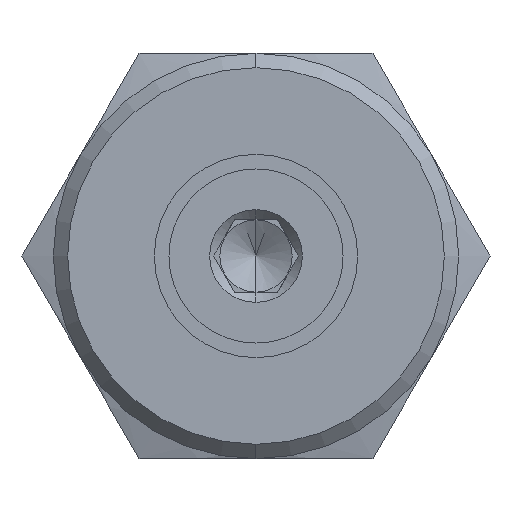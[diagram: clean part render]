
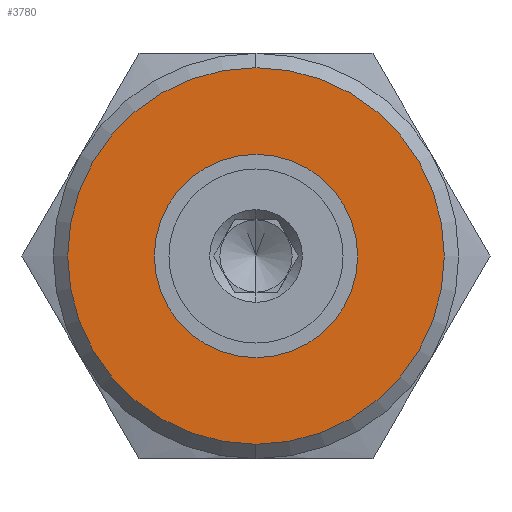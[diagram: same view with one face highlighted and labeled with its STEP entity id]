
A CAD part, left-side view. The second image highlights one B-rep face of the part: STEP entity #3780.
In plain terms, the highlighted planar face has unit normal (-1, 0, 0).
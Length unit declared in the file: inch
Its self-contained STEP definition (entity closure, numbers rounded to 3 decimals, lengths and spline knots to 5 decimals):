
#2344=CARTESIAN_POINT('',(-1.673,0.,-0.4065));
#2345=VERTEX_POINT('',#2344);
#2354=CARTESIAN_POINT('',(-1.673,0.,0.4065));
#2355=VERTEX_POINT('',#2354);
#2356=CARTESIAN_POINT('',(-1.673,0.,0.));
#2357=DIRECTION('',(1.0,0.0,0.0));
#2358=DIRECTION('',(0.0,0.0,-1.0));
#2359=AXIS2_PLACEMENT_3D('',#2356,#2357,#2358);
#2360=CIRCLE('',#2359,0.4065);
#2361=EDGE_CURVE('',#2345,#2355,#2360,.T.);
#2540=CARTESIAN_POINT('',(-1.673,0.,-0.2195));
#2541=VERTEX_POINT('',#2540);
#2557=CARTESIAN_POINT('',(-1.673,0.,0.2195));
#2558=VERTEX_POINT('',#2557);
#2565=CARTESIAN_POINT('',(-1.673,0.,0.));
#2566=DIRECTION('',(1.0,0.0,0.0));
#2567=DIRECTION('',(0.0,0.0,-1.0));
#2568=AXIS2_PLACEMENT_3D('',#2565,#2566,#2567);
#2569=CIRCLE('',#2568,0.2195);
#2570=EDGE_CURVE('',#2541,#2558,#2569,.T.);
#3075=CARTESIAN_POINT('',(-1.673,0.,0.));
#3076=DIRECTION('',(1.0,0.0,0.0));
#3077=DIRECTION('',(0.0,0.0,-1.0));
#3078=AXIS2_PLACEMENT_3D('',#3075,#3076,#3077);
#3079=CIRCLE('',#3078,0.2195);
#3080=EDGE_CURVE('',#2558,#2541,#3079,.T.);
#3761=CARTESIAN_POINT('',(-1.673,0.,-0.20325));
#3762=DIRECTION('',(-1.0,0.0,0.0));
#3763=DIRECTION('',(0.0,-1.0,0.0));
#3764=AXIS2_PLACEMENT_3D('',#3761,#3762,#3763);
#3765=PLANE('',#3764);
#3766=ORIENTED_EDGE('',*,*,#2361,.F.);
#3767=CARTESIAN_POINT('',(-1.673,0.,0.));
#3768=DIRECTION('',(1.0,0.0,0.0));
#3769=DIRECTION('',(0.0,0.0,-1.0));
#3770=AXIS2_PLACEMENT_3D('',#3767,#3768,#3769);
#3771=CIRCLE('',#3770,0.4065);
#3772=EDGE_CURVE('',#2355,#2345,#3771,.T.);
#3773=ORIENTED_EDGE('',*,*,#3772,.F.);
#3774=EDGE_LOOP('',(#3766,#3773));
#3775=FACE_OUTER_BOUND('',#3774,.T.);
#3776=ORIENTED_EDGE('',*,*,#2570,.T.);
#3777=ORIENTED_EDGE('',*,*,#3080,.T.);
#3778=EDGE_LOOP('',(#3776,#3777));
#3779=FACE_BOUND('',#3778,.T.);
#3780=ADVANCED_FACE('',(#3775,#3779),#3765,.T.);
